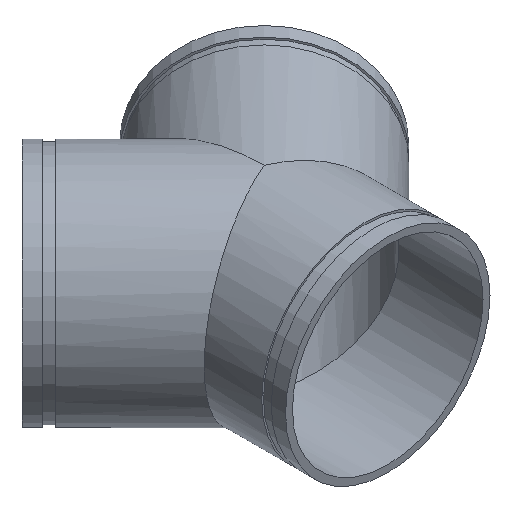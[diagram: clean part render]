
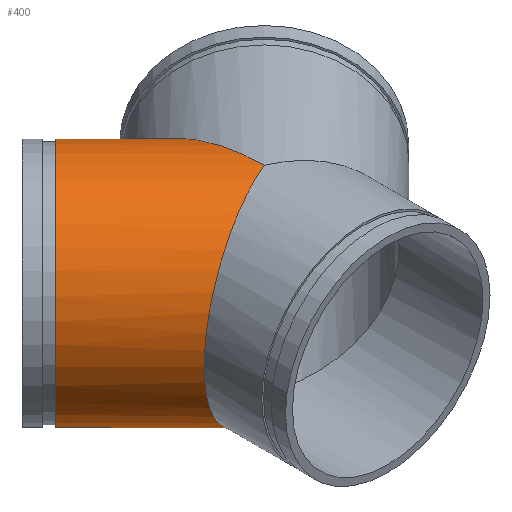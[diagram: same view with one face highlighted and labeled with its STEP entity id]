
A CAD part, isometric view. The second image highlights one B-rep face of the part: STEP entity #400.
In plain terms, the highlighted cylindrical face has radius 136.525 mm (diameter 273.05 mm), a full revolution.
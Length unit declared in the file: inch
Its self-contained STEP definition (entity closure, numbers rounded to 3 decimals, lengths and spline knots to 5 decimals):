
#76=FACE_OUTER_BOUND('',#103,.T.);
#103=EDGE_LOOP('',(#314,#315,#316,#317,#318,#319,#320,#321));
#118=ELLIPSE('',#470,7.6014,5.375);
#119=ELLIPSE('',#471,5.81786,5.375);
#120=ELLIPSE('',#472,5.81786,5.375);
#121=ELLIPSE('',#473,7.6014,5.375);
#131=LINE('',#735,#143);
#143=VECTOR('',#595,5.375);
#156=CIRCLE('',#446,5.375);
#157=CIRCLE('',#447,5.375);
#186=VERTEX_POINT('',#686);
#187=VERTEX_POINT('',#687);
#202=VERTEX_POINT('',#730);
#203=VERTEX_POINT('',#731);
#204=VERTEX_POINT('',#733);
#205=VERTEX_POINT('',#736);
#223=EDGE_CURVE('',#186,#187,#156,.T.);
#224=EDGE_CURVE('',#187,#186,#157,.T.);
#243=EDGE_CURVE('',#202,#203,#118,.T.);
#244=EDGE_CURVE('',#204,#202,#119,.T.);
#245=EDGE_CURVE('',#204,#187,#131,.T.);
#246=EDGE_CURVE('',#205,#204,#120,.T.);
#247=EDGE_CURVE('',#203,#205,#121,.T.);
#314=ORIENTED_EDGE('',*,*,#243,.F.);
#315=ORIENTED_EDGE('',*,*,#244,.F.);
#316=ORIENTED_EDGE('',*,*,#245,.T.);
#317=ORIENTED_EDGE('',*,*,#224,.T.);
#318=ORIENTED_EDGE('',*,*,#223,.T.);
#319=ORIENTED_EDGE('',*,*,#245,.F.);
#320=ORIENTED_EDGE('',*,*,#246,.F.);
#321=ORIENTED_EDGE('',*,*,#247,.F.);
#359=CYLINDRICAL_SURFACE('',#469,5.375);
#400=ADVANCED_FACE('',(#76),#359,.T.);
#446=AXIS2_PLACEMENT_3D('',#688,#539,#540);
#447=AXIS2_PLACEMENT_3D('',#689,#541,#542);
#469=AXIS2_PLACEMENT_3D('',#729,#589,#590);
#470=AXIS2_PLACEMENT_3D('',#732,#591,#592);
#471=AXIS2_PLACEMENT_3D('',#734,#593,#594);
#472=AXIS2_PLACEMENT_3D('',#737,#596,#597);
#473=AXIS2_PLACEMENT_3D('',#738,#598,#599);
#539=DIRECTION('center_axis',(0.707,-0.707,0.));
#540=DIRECTION('ref_axis',(0.707,0.707,0.));
#541=DIRECTION('center_axis',(0.707,-0.707,0.));
#542=DIRECTION('ref_axis',(0.707,0.707,0.));
#589=DIRECTION('center_axis',(0.707,-0.707,0.));
#590=DIRECTION('ref_axis',(0.707,0.707,0.));
#591=DIRECTION('center_axis',(1.,0.,0.));
#592=DIRECTION('ref_axis',(0.,1.,0.));
#593=DIRECTION('center_axis',(0.383,-0.924,0.));
#594=DIRECTION('ref_axis',(0.924,0.383,0.));
#595=DIRECTION('',(-0.707,0.707,0.));
#596=DIRECTION('center_axis',(0.383,-0.924,0.));
#597=DIRECTION('ref_axis',(0.924,0.383,0.));
#598=DIRECTION('center_axis',(1.,0.,0.));
#599=DIRECTION('ref_axis',(0.,1.,0.));
#686=CARTESIAN_POINT('',(-1.67938,9.28078,0.));
#687=CARTESIAN_POINT('',(-9.28078,1.67938,0.));
#688=CARTESIAN_POINT('Origin',(-5.48008,5.48008,0.));
#689=CARTESIAN_POINT('Origin',(-5.48008,5.48008,0.));
#729=CARTESIAN_POINT('Origin',(-6.36396,6.36396,0.));
#730=CARTESIAN_POINT('',(0.,0.,-5.375));
#731=CARTESIAN_POINT('',(0.,7.6014,0.));
#732=CARTESIAN_POINT('Origin',(0.,0.,0.));
#733=CARTESIAN_POINT('',(-5.375,-2.2264,0.));
#734=CARTESIAN_POINT('Origin',(0.,0.,0.));
#735=CARTESIAN_POINT('',(-10.16466,2.56326,0.));
#736=CARTESIAN_POINT('',(0.,0.,5.375));
#737=CARTESIAN_POINT('Origin',(0.,0.,0.));
#738=CARTESIAN_POINT('Origin',(0.,0.,0.));
